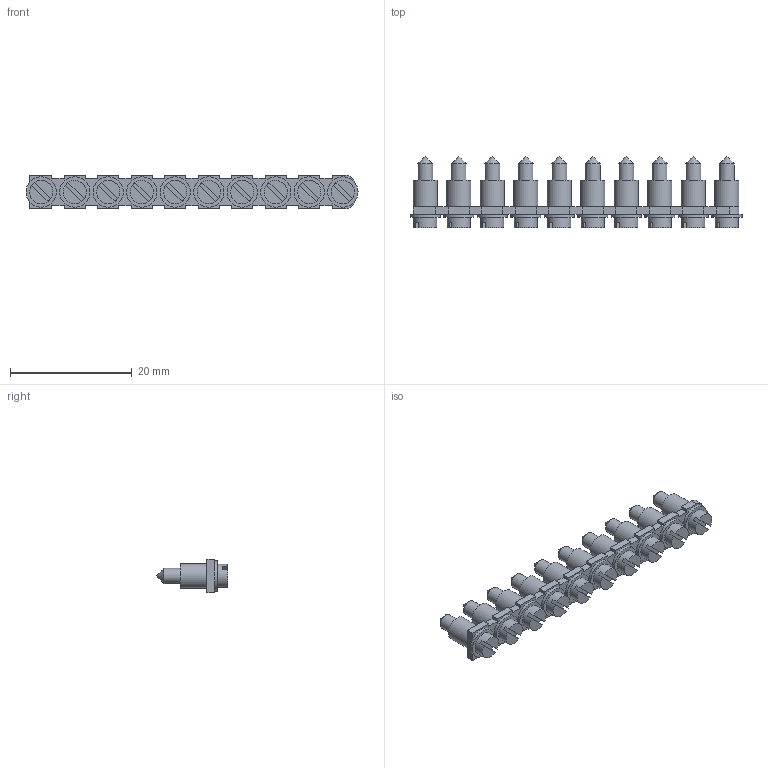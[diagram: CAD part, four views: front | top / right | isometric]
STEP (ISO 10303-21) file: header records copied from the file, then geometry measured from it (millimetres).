
FILE_DESCRIPTION(('STEP AP214'), '1');
FILE_NAME('Ìîñò Ì8-10', '', ('UNSPECIFIED'), ('UNSPECIFIED'), 'ASCON STEP Converter 1.6', 'ASCON Math Kernel', '');
FILE_SCHEMA(('AUTOMOTIVE_DESIGN { 1 0 10303 214 3 1 1}'));
Length unit declared in the file: millimetre
Products named in the file (5): 襠窏.741134.935-08; 襠窏.713161.061; 襠窏.758152.007
Assembly tree (31 placements, depth 2):
  (unnamed)
    襠窏.741134.935-08
    襠窏.713161.061  x10
    襠窏.758152.007  x10
    (unnamed)  x10
Bounding box: 54.5 x 11.7 x 5.5 mm (x, y, z)
Volume: 1229.3 mm3; surface area: 3310.3 mm2
Topology: 31 solids, 31 shells, 310 faces, 674 edges, 436 vertices
Faces by surface type: plane 188, cylinder 92, cone 20, torus 10
Full cylindrical faces by diameter (mm): 2.013 x10, 2.18 x10, 2.5 x10, 2.7 x10, 2.72 x10, 2.9 x10, 3.8 x10, 4 x10, 5 x10
Entity records: 5271 total; most frequent: CARTESIAN_POINT 628, DIRECTION 616, ORIENTED_EDGE 566, EDGE_CURVE 283, LINE 238, VECTOR 238, VERTEX_POINT 201, AXIS2_PLACEMENT_3D 189
